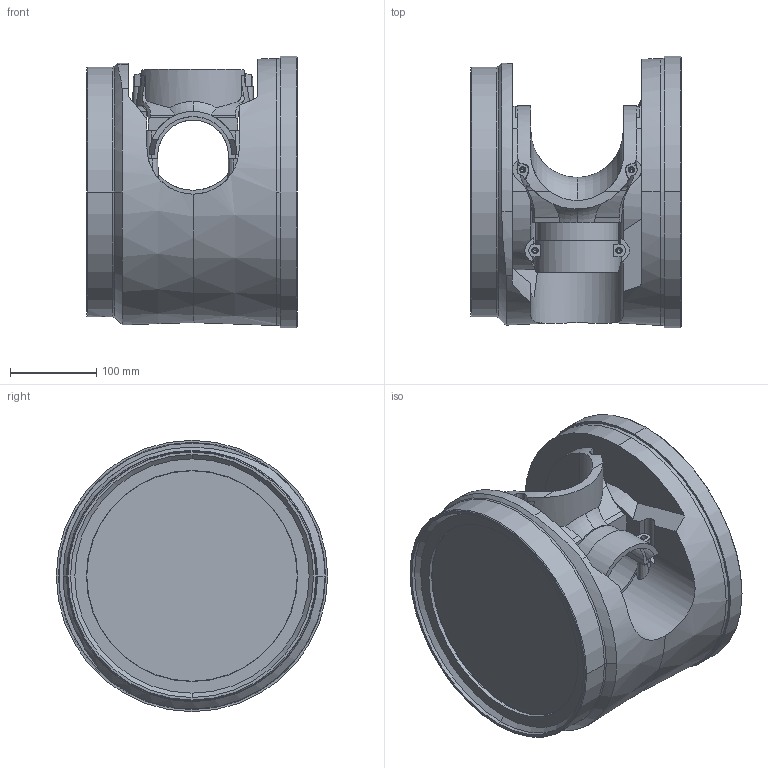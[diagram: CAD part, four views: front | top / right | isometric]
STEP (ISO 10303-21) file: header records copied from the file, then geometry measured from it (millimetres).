
FILE_DESCRIPTION (( 'STEP AP203' ), '1' );
FILE_NAME ('IRB8700-SW6_800-350_IRC5_rev00_LINK6_CAD.STEP', '2015-06-05T09:02:31', ( 'ABB' ), ( 'ABB' ), 'SwSTEP 2.0', 'SolidWorks 2014', '' );
FILE_SCHEMA (( 'CONFIG_CONTROL_DESIGN' ));
Length unit declared in the file: millimetre
Products named in the file (1): IRB8700-SW6_800-350_IRC5_rev00_LINK6_CAD
Bounding box: 244.5 x 315 x 315 mm (x, y, z)
Volume: 7493116.9 mm3; surface area: 680845.1 mm2
Topology: 2 solids, 2 shells, 439 faces, 1168 edges, 735 vertices
Faces by surface type: plane 153, cone 120, cylinder 120, torus 27, bspline 19
Entity records: 16390 total; most frequent: CARTESIAN_POINT 6047, ORIENTED_EDGE 2268, DIRECTION 1997, EDGE_CURVE 1134, AXIS2_PLACEMENT_3D 770, VERTEX_POINT 735, EDGE_LOOP 483, LINE 457
